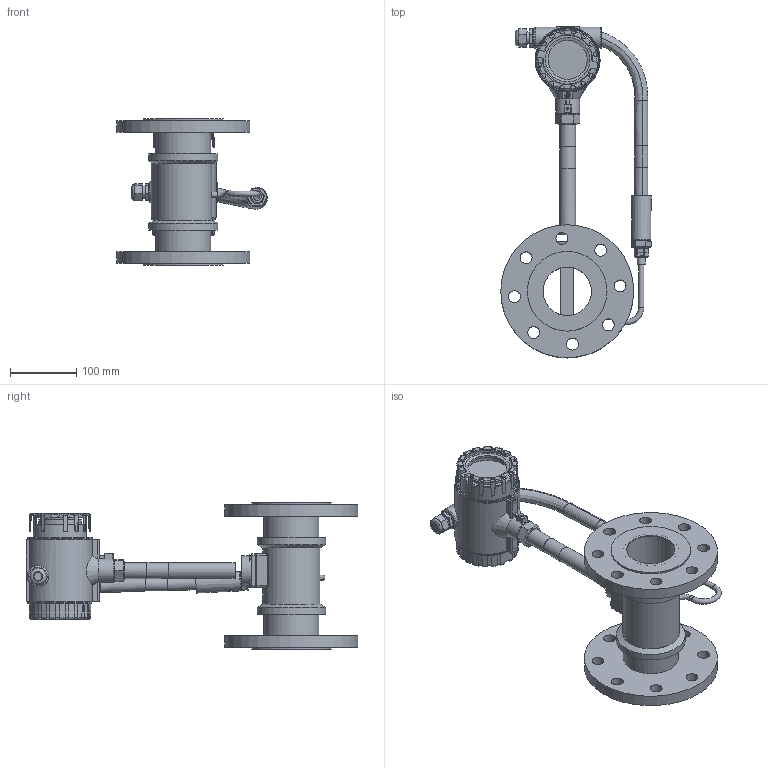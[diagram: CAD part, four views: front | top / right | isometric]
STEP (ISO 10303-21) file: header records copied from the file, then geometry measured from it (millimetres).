
FILE_DESCRIPTION(/* description */ ('STEP AP214'),/* implementation_level */ '2;1');
FILE_NAME(/* name */ 'DN80 vortex.step',/* time_stamp */ '2025-09-10T17:06:24+03:00',/* author */ (''),/* organization */ (''),/* preprocessor_version */ 'ST-DEVELOPER v20.1',/* originating_system */ 'Autodesk Translation Framework v14.10.0.0',/* authorisation */ '');
FILE_SCHEMA (('AUTOMOTIVE_DESIGN { 1 0 10303 214 3 1 1 }'));
Length unit declared in the file: millimetre
Products named in the file (1): DN100法兰连接装配体
Bounding box: 226.74 x 499.99 x 220.01 mm (x, y, z)
Volume: 1988764 mm3; surface area: 543016.8 mm2
Topology: 24 solids, 25 shells, 920 faces, 2290 edges, 1453 vertices
Faces by surface type: plane 513, cylinder 249, torus 61, cone 53, bspline 40, sphere 4
Full cylindrical faces by diameter (mm): 3.2 x1, 3.3 x1, 3.65 x2, 4.2 x10, 6 x12, 8 x4, 8.7 x2, 9 x1, 10 x1, 12 x1, 12.4 x1, 13 x1, 14 x1, 16 x2, 17.727 x4, 18 x21, 19 x7, 19.2 x2, 20 x1, 20.6 x1, 20.655 x1, 22.6 x1, 24 x2, 24.2 x1, 28 x2, 31.9 x2, 38 x1, 44 x1, 59 x1, 64 x1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
Entity records: 32409 total; most frequent: CARTESIAN_POINT 9998, DIRECTION 4842, ORIENTED_EDGE 4554, EDGE_CURVE 2277, AXIS2_PLACEMENT_3D 1842, VERTEX_POINT 1453, LINE 1158, VECTOR 1158
